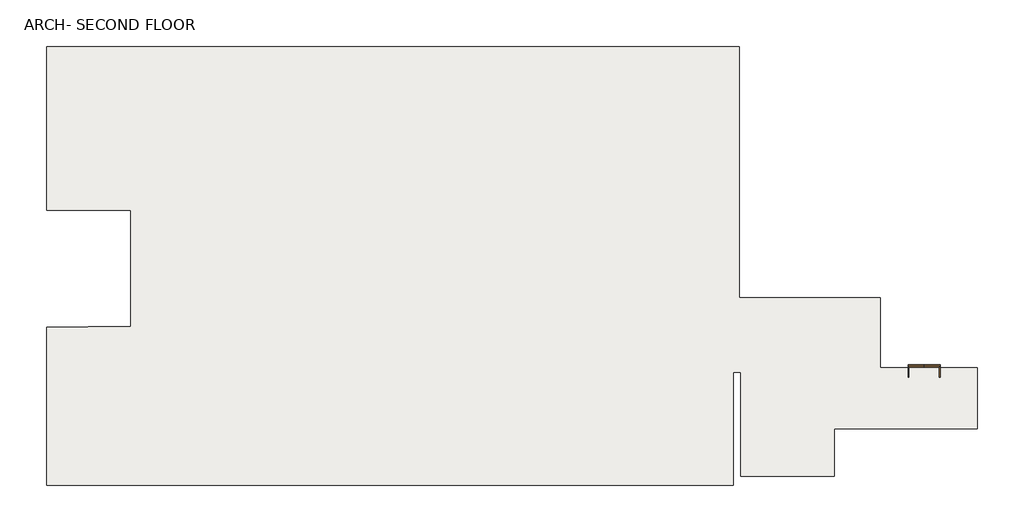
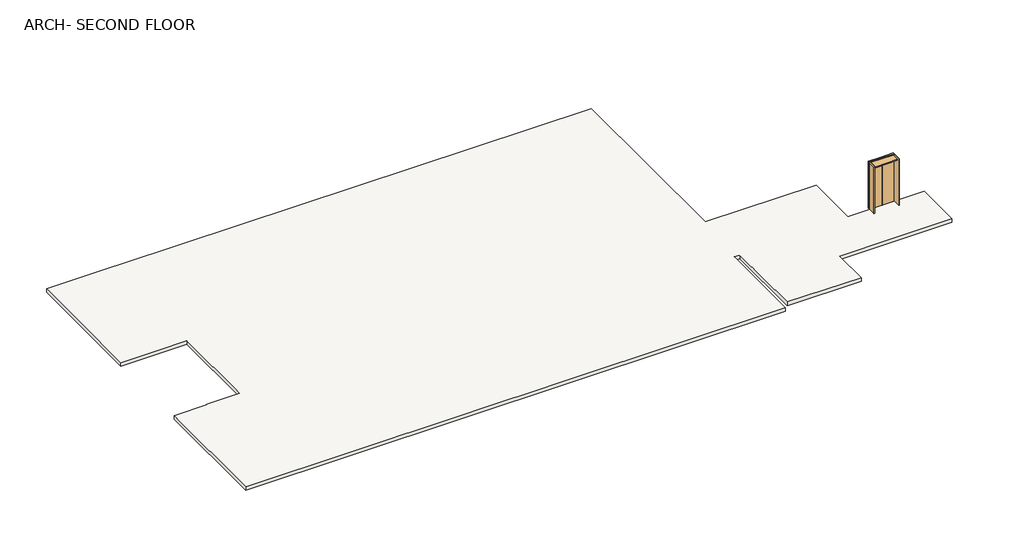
# One storey: 1 door, 1 slab.
"""IFC4 building model written with IfcOpenShell, lengths in millimetres."""

from ifc_helpers import new_model, si_unit, origin, place, context, project, spatial, faceted_brep, transform, mapped, element, save
from components import door_aaeb5b8c

model = new_model("IFC4")

# Units and contexts
model_context = context("Model", 3, world=origin())
ifc_project = project(units=[si_unit("LENGTHUNIT", "METRE", prefix="MILLI")], contexts=[model_context])

# Site, building, storey
site = spatial("IfcSite", under=ifc_project)
building = spatial("IfcBuilding", under=site)
storey = spatial("IfcBuildingStorey", under=building, Name="ARCH- SECOND FLOOR", Elevation=34544.0)

# Door
placement = place(None, origin())
door_shape = door_aaeb5b8c(model_context)
element("IfcDoor", 1, ObjectType="Elevator_Door_CabCenter-Genericrfa : 42\" Opening", at=placement, inside=storey, context=model_context, shape_type="MappedRepresentation", body=[
    mapped(door_shape, transform((20107.0141096, -3399.4304995, 34544.0), x_axis=(1.0, 0.0, 0.0), y_axis=(0.0, 1.0, 0.0), z_axis=(0.0, 0.0, 1.0))),
])

# Slab
element("IfcSlab", 2, ObjectType="4.5\" NW Concrete on 2\" Metal Deck", at=placement, inside=storey, context=model_context, shape_type="Brep", body=[
    faceted_brep([(-10428.9204607, 7944.8445005, 34378.9), (-7555.5454607, 7944.8445005, 34378.9), (-7149.1454607, 7944.8445005, 34378.9), (13669.3295393, 7944.8445005, 34378.9), (13669.3295393, -795.9304995, 34378.9), (18588.1486799, -795.9304995, 34378.9), (18588.1486799, -3234.3304995, 34378.9), (21963.6565318, -3234.3304995, 34378.9), (21963.6565318, -5354.6502033, 34378.9), (16987.2045393, -5354.6502033, 34378.9), (16987.2045393, -7006.8107957, 34378.9), (13720.1295393, -7006.8107957, 34378.9), (13720.1295393, -3387.4746401, 34378.9), (13466.0799299, -3387.4746401, 34378.9), (13466.0799299, -7314.2054995, 34378.9), (-10428.9204607, -7314.2054995, 34378.9), (-10428.9204607, -1830.9804995, 34378.9), (-8971.5954607, -1830.9804995, 34378.9), (-8971.5954607, -1802.4551089, 34378.9), (-7501.5704607, -1802.4551089, 34378.9), (-7501.5704607, 2255.2445005, 34378.9), (-10428.9204607, 2255.2445005, 34378.9), (-10428.9204607, 7944.8445005, 34544.0), (-10428.9204607, 2255.2445005, 34544.0), (-7501.5704607, 2255.2445005, 34544.0), (-7501.5704607, -1802.4551089, 34544.0), (-8971.5954607, -1802.4551089, 34544.0), (-8971.5954607, -1830.9804995, 34544.0), (-10428.9204607, -1830.9804995, 34544.0), (-10428.9204607, -7314.2054995, 34544.0), (13466.0799299, -7314.2054995, 34544.0), (13466.0799299, -3387.4746401, 34544.0), (13720.1295393, -3387.4746401, 34544.0), (13720.1295393, -7006.8107957, 34544.0), (16987.2045393, -7006.8107957, 34544.0), (16987.2045393, -5354.6502033, 34544.0), (21963.6565318, -5354.6502033, 34544.0), (21963.6565318, -3234.3304995, 34544.0), (18588.1486799, -3234.3304995, 34544.0), (18588.1486799, -795.9304995, 34544.0), (13669.3295393, -795.9304995, 34544.0), (13669.3295393, 7944.8445005, 34544.0), (-7149.1454607, 7944.8445005, 34544.0), (-7555.5454607, 7944.8445005, 34544.0)], [[[0, 1, 2, 3, 4, 5, 6, 7, 8, 9, 10, 11, 12, 13, 14, 15, 16, 17, 18, 19, 20, 21]], [[22, 23, 24, 25, 26, 27, 28, 29, 30, 31, 32, 33, 34, 35, 36, 37, 38, 39, 40, 41, 42, 43]], [[3, 2, 1, 0, 22, 43, 42, 41]], [[4, 3, 41, 40]], [[5, 4, 40, 39]], [[6, 5, 39, 38]], [[7, 6, 38, 37]], [[8, 7, 37, 36]], [[11, 10, 34, 33]], [[15, 14, 30, 29]], [[16, 15, 29, 28]], [[9, 8, 36, 35]], [[10, 9, 35, 34]], [[12, 11, 33, 32]], [[13, 12, 32, 31]], [[14, 13, 31, 30]], [[17, 16, 28, 27]], [[18, 17, 27, 26]], [[19, 18, 26, 25]], [[20, 19, 25, 24]], [[21, 20, 24, 23]], [[0, 21, 23, 22]]]),
])

save(model, "model.ifc")
